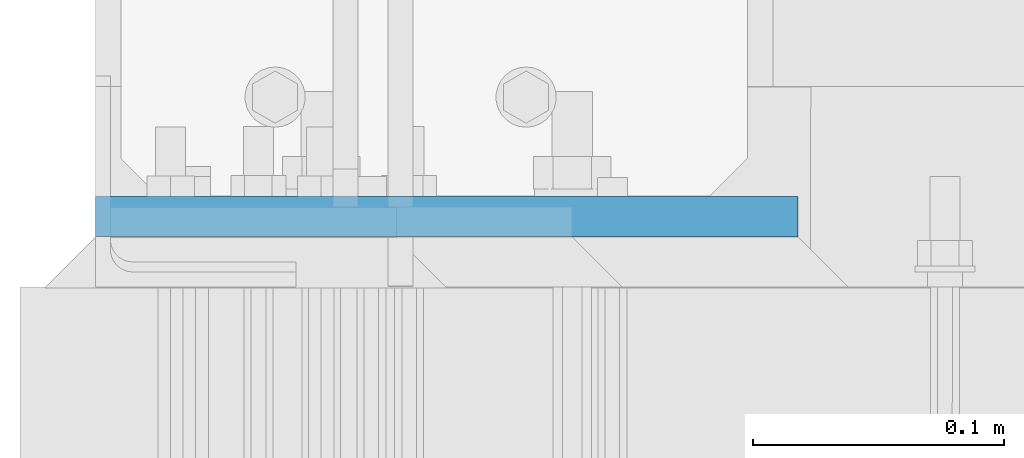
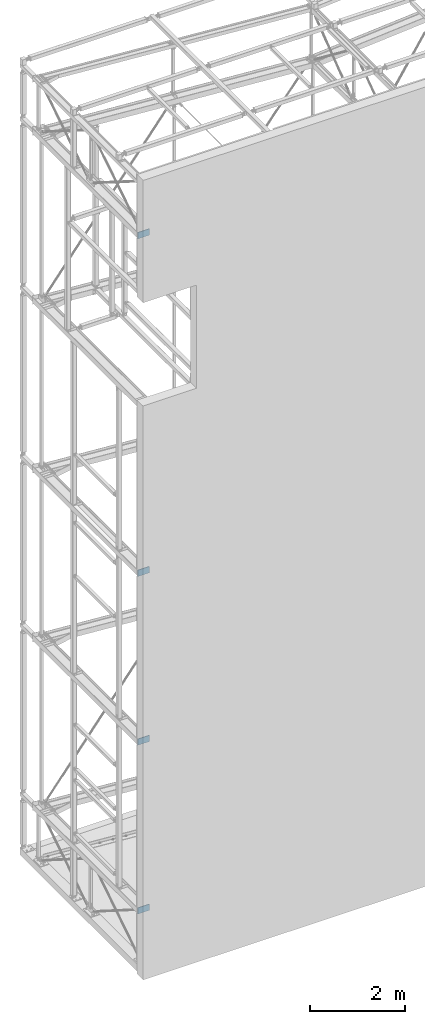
# One storey, part 61 of 271: 4 beams, 4 elements without a shape of their own.
"""IFC2X3 building model written with IfcOpenShell, lengths in millimetres."""

from ifc_helpers import new_model, si_unit, frame, origin_with_axes, origin_2d_with_axis, place, context, subcontext, project, spatial, rectangle, extrude, material, type_object, element, aggregate, save


model = new_model("IFC2X3")

# Units and contexts
model_context = context("Model", 3, precision=1e-05, world=origin_with_axes())
body_context = subcontext(model_context, "Body", "Model", "MODEL_VIEW")
ifc_project = project(units=[si_unit("LENGTHUNIT", "METRE", prefix="MILLI"), si_unit("AREAUNIT", "SQUARE_METRE"), si_unit("VOLUMEUNIT", "CUBIC_METRE"), si_unit("MASSUNIT", "GRAM", prefix="KILO"), si_unit("TIMEUNIT", "SECOND"), si_unit("PLANEANGLEUNIT", "RADIAN"), si_unit("SOLIDANGLEUNIT", "STERADIAN"), si_unit("THERMODYNAMICTEMPERATUREUNIT", "DEGREE_CELSIUS"), si_unit("LUMINOUSINTENSITYUNIT", "LUMEN")], contexts=[model_context])

# Site, building, storey
site_placement = place(None, origin_with_axes())
site = spatial("IfcSite", under=ifc_project, at=site_placement, Name="Undefined", CompositionType="ELEMENT")
building_placement = place(site_placement, origin_with_axes())
building = spatial("IfcBuilding", under=site, at=building_placement, Name="Undefined", CompositionType="ELEMENT")
storey_placement = place(building_placement, origin_with_axes())
storey = spatial("IfcBuildingStorey", under=building, at=storey_placement, Name="Undefined", CompositionType="ELEMENT", Elevation=0.0)

# Assembly, beam
assembly_1_placement = place(storey_placement, origin_with_axes())
assembly_1 = element("IfcElementAssembly", 1, at=assembly_1_placement, inside=storey, AssemblyPlace="NOTDEFINED", PredefinedType="RIGID_FRAME")
ifc_material = material(Name="STEEL/S355JR")
beam_type = type_object("IfcBeamType", Name="BL16*160", PredefinedType="NOTDEFINED")
beam_1_placement = place(assembly_1_placement, frame((-11.6243129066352, 27.3249842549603, 1364.34999990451), z_axis=(0.0, 0.0, -1.0), x_axis=(1.0, 0.0, 0.0)))
beam_1 = element("IfcBeam", 2, at=beam_1_placement, type_object=beam_type, material=ifc_material, Name="BLACHA_PODSTAWY", ObjectType="BL16*160", context=body_context, shape_type="SweptSolid", body=[
    extrude(rectangle(XDim=16.0, YDim=160.0, at=origin_2d_with_axis()), frame((280.0, 0.0, 0.0), z_axis=(-1.0, 0.0, 1.38777878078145e-17), x_axis=(0.0, -1.0, 0.0)), (0.0, 0.0, 1.0), 280.0),
])
aggregate(assembly_1, [beam_1])

assembly_2_placement = place(storey_placement, origin_with_axes())
assembly_2 = element("IfcElementAssembly", 3, at=assembly_2_placement, inside=storey, AssemblyPlace="NOTDEFINED", PredefinedType="RIGID_FRAME")
beam_2_placement = place(assembly_2_placement, frame((-11.6243129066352, 27.3249842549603, 5684.34999990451), z_axis=(0.0, 0.0, -1.0), x_axis=(1.0, 0.0, 0.0)))
beam_2 = element("IfcBeam", 4, at=beam_2_placement, type_object=beam_type, material=ifc_material, Name="BLACHA_PODSTAWY", ObjectType="BL16*160", context=body_context, shape_type="SweptSolid", body=[
    extrude(rectangle(XDim=16.0, YDim=160.0, at=origin_2d_with_axis()), frame((280.0, 0.0, 0.0), z_axis=(-1.0, 0.0, 1.38777878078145e-17), x_axis=(0.0, -1.0, 0.0)), (0.0, 0.0, 1.0), 280.0),
])
aggregate(assembly_2, [beam_2])

assembly_3_placement = place(storey_placement, origin_with_axes())
assembly_3 = element("IfcElementAssembly", 5, at=assembly_3_placement, inside=storey, AssemblyPlace="NOTDEFINED", PredefinedType="RIGID_FRAME")
beam_3_placement = place(assembly_3_placement, frame((-11.6243129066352, 27.3249842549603, 10004.3499999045), z_axis=(0.0, 0.0, -1.0), x_axis=(1.0, 0.0, 0.0)))
beam_3 = element("IfcBeam", 6, at=beam_3_placement, type_object=beam_type, material=ifc_material, Name="BLACHA_PODSTAWY", ObjectType="BL16*160", context=body_context, shape_type="SweptSolid", body=[
    extrude(rectangle(XDim=16.0, YDim=160.0, at=origin_2d_with_axis()), frame((280.0, 0.0, 0.0), z_axis=(-1.0, 0.0, 1.38777878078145e-17), x_axis=(0.0, -1.0, 0.0)), (0.0, 0.0, 1.0), 280.0),
])
aggregate(assembly_3, [beam_3])

assembly_4_placement = place(storey_placement, origin_with_axes())
assembly_4 = element("IfcElementAssembly", 7, at=assembly_4_placement, inside=storey, AssemblyPlace="NOTDEFINED", PredefinedType="RIGID_FRAME")
beam_4_placement = place(assembly_4_placement, frame((-11.6243129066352, 27.3249842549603, 18644.3499999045), z_axis=(0.0, 0.0, -1.0), x_axis=(1.0, 0.0, 0.0)))
beam_4 = element("IfcBeam", 8, at=beam_4_placement, type_object=beam_type, material=ifc_material, Name="BLACHA_PODSTAWY", ObjectType="BL16*160", context=body_context, shape_type="SweptSolid", body=[
    extrude(rectangle(XDim=16.0, YDim=160.0, at=origin_2d_with_axis()), frame((280.0, 0.0, 0.0), z_axis=(-1.0, 0.0, 1.38777878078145e-17), x_axis=(0.0, -1.0, 0.0)), (0.0, 0.0, 1.0), 280.0),
])
aggregate(assembly_4, [beam_4])

save(model, "model.ifc")
